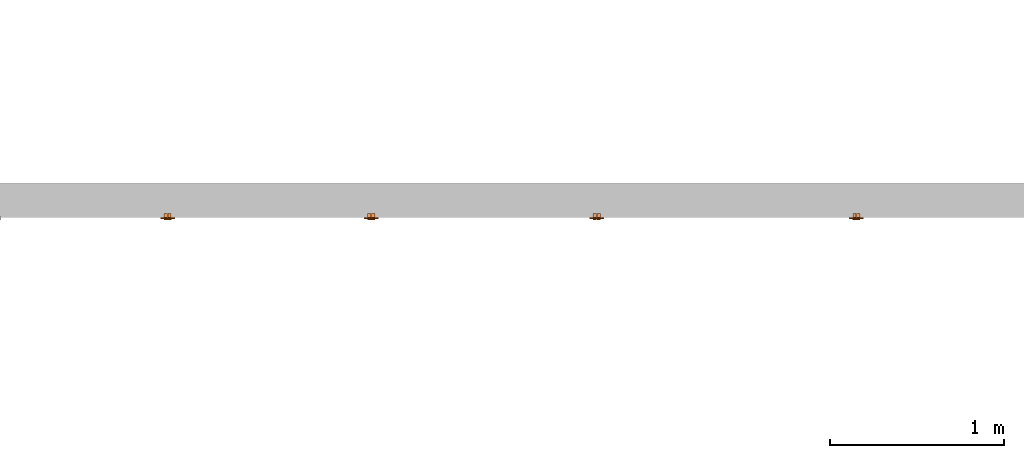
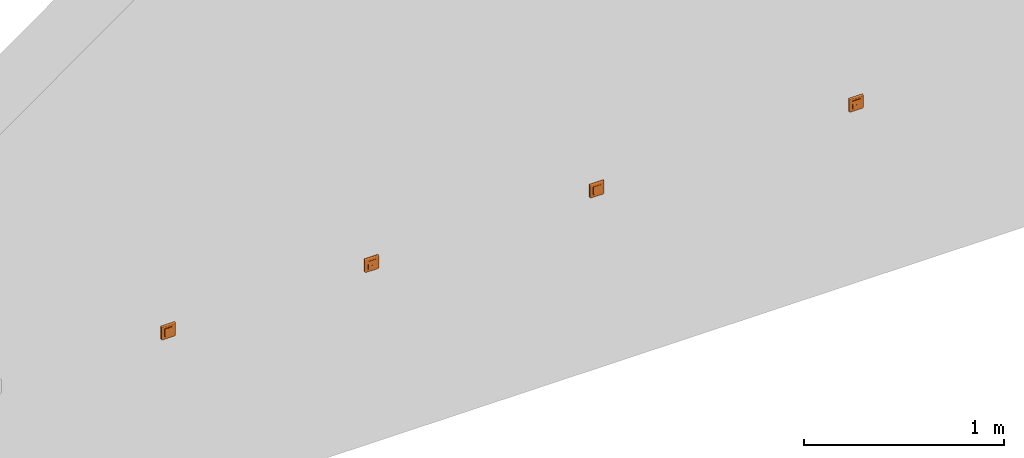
# One storey, part 134 of 197: 4 proxies.
"""IFC2X3 building model written with IfcOpenShell, lengths in metres."""

import ifcopenshell
import ifcopenshell.guid

model = None  # the IFC model being written
_history = None  # IfcOwnerHistory: only IFC2X3 demands one
_inside = {}  # id of a spatial element -> (the spatial element, [elements in it])
_under = {}  # id of a project, library or spatial element -> (it, [spatial elements below it])
_declared = {}  # id of a project -> (the project, [libraries it declares])
_typed = {}  # id of a type object -> (the type object, [elements of that type])
_made_of = {}  # id of a material, layer set ... -> (it, [elements and type objects made of it])


def new_model(schema):
    """Start an empty IFC model of exactly this schema.

    Asked for "IFC4X3", IfcOpenShell would pick the latest addendum, in which some entities
    have other attributes; the version numbers below select the first issue.
    IFC2X3 requires an IfcOwnerHistory on every rooted entity: one is made here for all.
    """
    global model, _history
    if schema == "IFC4X3":
        model = ifcopenshell.file(schema_version=(4, 3, 0, 0))
    else:
        model = ifcopenshell.file(schema=schema)
    _inside.clear()
    _under.clear()
    _declared.clear()
    _typed.clear()
    _made_of.clear()
    _history = None
    if model.schema == "IFC2X3":
        org = make("IfcOrganization", Name="unknown")
        user = make(
            "IfcPersonAndOrganization",
            ThePerson=make("IfcPerson", FamilyName="unknown"),
            TheOrganization=org,
        )
        app = make(
            "IfcApplication",
            ApplicationDeveloper=org,
            Version="unknown",
            ApplicationFullName="unknown",
            ApplicationIdentifier="unknown",
        )
        _history = make(
            "IfcOwnerHistory",
            OwningUser=user,
            OwningApplication=app,
            ChangeAction="ADDED",
            CreationDate=0,
        )
    return model


def make(cls, **values):
    """One entity of the class cls with the attributes given. An attribute that is None is left unset."""
    return model.create_entity(
        cls, **{name: value for name, value in values.items() if value is not None}
    )


def entity(cls, *values):
    """Any entity or typed value of the class cls, its attributes in the order of the schema. None: left unset."""
    e = model.create_entity(cls)
    for i, value in enumerate(values):
        if value is not None:
            e[i] = value
    return e


def rooted(cls, **values):
    """An entity with a GlobalId (a new one), such as an element, a storey or a relation."""
    return make(cls, GlobalId=ifcopenshell.guid.new(), OwnerHistory=_history, **values)


def si_unit(unit_type, name, prefix=None):
    """IfcSIUnit, for example si_unit("LENGTHUNIT", "METRE", prefix="MILLI")."""
    return make("IfcSIUnit", UnitType=unit_type, Prefix=prefix, Name=name)


def converted_unit(unit_type, name, factor, base, dimensions=None, offset=None):
    """IfcConversionBasedUnit, such as the inch: factor (a typed value) times the base unit."""
    return make(
        "IfcConversionBasedUnit"
        if offset is None
        else "IfcConversionBasedUnitWithOffset",
        ConversionOffset=offset,
        Dimensions=None
        if dimensions is None
        else entity("IfcDimensionalExponents", *dimensions),
        UnitType=unit_type,
        Name=name,
        ConversionFactor=make(
            "IfcMeasureWithUnit", ValueComponent=factor, UnitComponent=base
        ),
    )


def assignment(units):
    """IfcUnitAssignment: the units of a project."""
    return None if units is None else make("IfcUnitAssignment", Units=units)


def point(xyz):
    """IfcCartesianPoint."""
    return None if xyz is None else make("IfcCartesianPoint", Coordinates=xyz)


def direction(xyz):
    """IfcDirection."""
    return None if xyz is None else make("IfcDirection", DirectionRatios=xyz)


def frame(location, z_axis=None, x_axis=None):
    """IfcAxis2Placement3D, a coordinate frame: its origin and axes. An axis left out is left unset."""
    return make(
        "IfcAxis2Placement3D",
        Location=point(location),
        Axis=direction(z_axis),
        RefDirection=direction(x_axis),
    )


def origin():
    """The frame at (0, 0, 0) with its axes left unset."""
    return frame((0.0, 0.0, 0.0))


def place(relative_to, where):
    """IfcLocalPlacement: puts the frame where relative to a parent placement (None: the world)."""
    return make(
        "IfcLocalPlacement", PlacementRelTo=relative_to, RelativePlacement=where
    )


def context(
    kind, dimensions, precision=None, world=None, true_north=None, identifier=None
):
    """IfcGeometricRepresentationContext, for example the 3D "Model" context."""
    return make(
        "IfcGeometricRepresentationContext",
        ContextIdentifier=identifier,
        ContextType=kind,
        CoordinateSpaceDimension=dimensions,
        Precision=precision,
        WorldCoordinateSystem=world,
        TrueNorth=true_north,
    )


def subcontext(parent, identifier, kind, view, scale=None):
    """IfcGeometricRepresentationSubContext, for example "Body" below "Model"."""
    return make(
        "IfcGeometricRepresentationSubContext",
        ContextIdentifier=identifier,
        ContextType=kind,
        ParentContext=parent,
        TargetScale=scale,
        TargetView=view,
    )


def project(units=None, contexts=None):
    """IfcProject with its units and contexts."""
    return rooted(
        "IfcProject",
        Name="project",
        RepresentationContexts=contexts,
        UnitsInContext=assignment(units),
    )


def spatial(cls, under=None, at=None, **own):
    """A site, building, storey or space (cls), placed at a placement, below another one or the project."""
    s = rooted(cls, ObjectPlacement=at, **own)
    if under is not None:
        _under.setdefault(under.id(), (under, []))[1].append(s)
    return s


def faces_of(points, faces, orient=None, outer=None):
    """IfcFace entities. A face is a list of loops; a loop is a list of indices into points, from 0.

    orient and outer hold one flag for each loop. By default every Orientation is true, the
    first loop of a face is its IfcFaceOuterBound and the others are IfcFaceBound.
    """
    made = []
    for i, loops in enumerate(faces):
        bounds = []
        for j, loop in enumerate(loops):
            is_outer = j == 0 if outer is None else outer[i][j]
            bounds.append(
                make(
                    "IfcFaceOuterBound" if is_outer else "IfcFaceBound",
                    Bound=make("IfcPolyLoop", Polygon=[points[k] for k in loop]),
                    Orientation=True if orient is None else orient[i][j],
                )
            )
        made.append(make("IfcFace", Bounds=bounds))
    return made


def faceted_brep(points, faces, orient=None, outer=None, voids=None):
    """IfcFacetedBrep: a solid bounded by flat faces; with voids (closed shells), ...WithVoids."""
    shared = [point(p) for p in points]
    hull = make("IfcClosedShell", CfsFaces=faces_of(shared, faces, orient, outer))
    if voids is None:
        return make("IfcFacetedBrep", Outer=hull)
    return make(
        "IfcFacetedBrepWithVoids",
        Outer=hull,
        Voids=[
            make(cls, CfsFaces=faces_of(shared, fs, o, b)) for cls, fs, o, b in voids
        ],
    )


def shape(context_of_items, identifier, shape_type, items):
    """IfcShapeRepresentation: the items that make up one representation, for example the "Body"."""
    return make(
        "IfcShapeRepresentation",
        ContextOfItems=context_of_items,
        RepresentationIdentifier=identifier,
        RepresentationType=shape_type,
        Items=items,
    )


def source(mapping_origin, context_of_items, identifier, shape_type, items):
    """IfcRepresentationMap: a shape defined once, which mapped items show again and again."""
    return make(
        "IfcRepresentationMap",
        MappingOrigin=mapping_origin,
        MappedRepresentation=shape(context_of_items, identifier, shape_type, items),
    )


def transform(
    local_origin,
    x_axis=None,
    y_axis=None,
    z_axis=None,
    scale=None,
    scale2=None,
    scale3=None,
    uniform=True,
):
    """IfcCartesianTransformationOperator3D, or its non-uniform kind. x_axis, y_axis, z_axis: its Axis1, 2, 3."""
    if uniform:
        return make(
            "IfcCartesianTransformationOperator3D",
            Axis1=direction(x_axis),
            Axis2=direction(y_axis),
            LocalOrigin=point(local_origin),
            Scale=scale,
            Axis3=direction(z_axis),
        )
    return make(
        "IfcCartesianTransformationOperator3DnonUniform",
        Axis1=direction(x_axis),
        Axis2=direction(y_axis),
        LocalOrigin=point(local_origin),
        Scale=scale,
        Axis3=direction(z_axis),
        Scale2=scale2,
        Scale3=scale3,
    )


def mapped(mapping_source, mapping_target):
    """IfcMappedItem: shows the shape of a source again, moved by a transform."""
    return make(
        "IfcMappedItem", MappingSource=mapping_source, MappingTarget=mapping_target
    )


def material(Name=None, Category=None):
    """IfcMaterial."""
    return make("IfcMaterial", Name=Name, Category=Category)


def material_list(materials):
    """IfcMaterialList."""
    return make("IfcMaterialList", Materials=materials)


def made_of(thing, what):
    """Note that an element or type object is made of a material, layer set ...; save() writes the relation."""
    if what is not None:
        _made_of.setdefault(what.id(), (what, []))[1].append(thing)
    return thing


def type_object(cls, material=None, **own):
    """A type object (cls), such as IfcWallType, which elements share."""
    return made_of(rooted(cls, **own), material)


def type_shapes(of_type, sources):
    """Give a type object the sources (RepresentationMaps) that its elements show as mapped items."""
    of_type.RepresentationMaps = sources


def element(
    cls,
    number,
    at=None,
    inside=None,
    cuts=None,
    type_object=None,
    material=None,
    context=None,
    identifier="Body",
    shape_type=None,
    held_by="IfcProductDefinitionShape",
    body=None,
    shapes=None,
    **own,
):
    """One element of the class cls, such as IfcWall. Its Tag is "e" and its number.

    at: its placement. inside: the storey or other place that contains it. cuts: it is an
    opening in that element (IfcRelVoidsElement). A single representation is given by context,
    identifier, shape_type and body (its items); several are given by shapes. held_by: the class
    of the entity that holds the representations. save() writes the other relations.
    """
    e = rooted(cls, Tag="e%d" % number, ObjectPlacement=at, **own)
    if body is not None:
        shapes = [shape(context, identifier, shape_type, body)]
    if shapes is not None:
        e.Representation = make(held_by, Representations=shapes)
    if inside is not None:
        _inside.setdefault(inside.id(), (inside, []))[1].append(e)
    if cuts is not None:
        rooted(
            "IfcRelVoidsElement", RelatingBuildingElement=cuts, RelatedOpeningElement=e
        )
    if type_object is not None:
        _typed.setdefault(type_object.id(), (type_object, []))[1].append(e)
    return made_of(e, material)


def aggregate(whole, parts):
    """IfcRelAggregates: a whole, such as a stair, and the parts it consists of."""
    return rooted("IfcRelAggregates", RelatingObject=whole, RelatedObjects=parts)


def save(model, path):
    """Write the relations noted so far, then the file.

    IfcRelAggregates (storeys below a building ...), IfcRelContainedInSpatialStructure (elements
    in a storey), IfcRelDefinesByType, IfcRelAssociatesMaterial and IfcRelDeclares: one each for
    every whole, place, type object, material and project.
    """
    for whole, parts in _under.values():
        aggregate(whole, parts)
    for where, things in _inside.values():
        rooted(
            "IfcRelContainedInSpatialStructure",
            RelatedElements=things,
            RelatingStructure=where,
        )
    for kind, things in _typed.values():
        rooted("IfcRelDefinesByType", RelatedObjects=things, RelatingType=kind)
    for what, things in _made_of.values():
        rooted("IfcRelAssociatesMaterial", RelatedObjects=things, RelatingMaterial=what)
    for by, libraries in _declared.values():
        rooted("IfcRelDeclares", RelatingContext=by, RelatedDefinitions=libraries)
    model.write(path)


model = new_model("IFC2X3")

# Units and contexts
model_context = context("Model", 3, precision=1e-05, world=origin(), true_north=direction((6.123031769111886e-17, 1.0)))
body_context = subcontext(model_context, "Body", "Model", "MODEL_VIEW")
ifc_project = project(units=[si_unit("LENGTHUNIT", "METRE"), converted_unit("PLANEANGLEUNIT", "DEGREE", entity("IfcPlaneAngleMeasure", 0.017453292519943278), si_unit("PLANEANGLEUNIT", "RADIAN"), dimensions=[0, 0, 0, 0, 0, 0, 0]), si_unit("AREAUNIT", "SQUARE_METRE")], contexts=[model_context])

# Site, building, storey
site_placement = place(None, origin())
site = spatial("IfcSite", under=ifc_project, at=site_placement, Name="Default", CompositionType="ELEMENT")
building_placement = place(site_placement, origin())
building = spatial("IfcBuilding", under=site, at=building_placement, CompositionType="ELEMENT")
storey_placement = place(building_placement, origin())
storey = spatial("IfcBuildingStorey", under=building, at=storey_placement, Name="Niveau 0", CompositionType="ELEMENT", Elevation=0.0)

# Proxies
ifc_material_1 = material(Name="BETCE-DOIGT-BLANC")
ifc_material_2 = material(Name="BETCE-ENJOLIVEUR-BLANC")
ifc_material_3 = material(Name="<Unnamed>")
ifc_material_list = material_list([ifc_material_1, ifc_material_2, ifc_material_3])
building_element_proxy_type_1 = type_object("IfcBuildingElementProxyType", Name="Interrupteur double encastré:Double allumage", PredefinedType="NOTDEFINED", material=ifc_material_list)
shared_shape_1 = source(origin(), body_context, "Body", "Brep", [
    faceted_brep([(0.022499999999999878, -0.010499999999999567, 0.022499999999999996), (9.999999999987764e-05, -0.010499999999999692, 0.022500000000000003), (9.999999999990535e-05, -0.014999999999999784, -0.02250000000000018), (0.022499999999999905, -0.014999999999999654, -0.022500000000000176), (9.99999999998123e-05, 0.0, 0.022499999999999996), (0.022499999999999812, 0.0, 0.022499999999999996), (0.022499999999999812, 0.0, -0.02250000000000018), (9.99999999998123e-05, 0.0, -0.02250000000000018)], [[[0, 1, 2, 3]], [[4, 5, 6, 7]], [[5, 4, 1, 0]], [[6, 5, 0, 3]], [[7, 6, 3, 2]], [[4, 7, 2, 1]]]),
    faceted_brep([(-0.022500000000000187, 0.0, -0.022500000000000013), (-0.022500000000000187, 0.0, 0.022499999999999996), (-0.00010000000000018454, 0.0, 0.022499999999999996), (-0.00010000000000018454, 0.0, -0.022500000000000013), (-0.022500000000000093, -0.014999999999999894, -0.022500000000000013), (-0.02250000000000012, -0.010499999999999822, 0.022499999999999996), (-0.0001000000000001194, -0.010499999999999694, 0.022499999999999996), (-0.00010000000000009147, -0.01499999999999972, -0.022500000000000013)], [[[0, 1, 2, 3]], [[1, 0, 4, 5]], [[2, 1, 5, 6]], [[3, 2, 6, 7]], [[0, 3, 7, 4]], [[5, 4, 7, 6]]]),
    faceted_brep([(0.04099999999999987, -0.008999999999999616, -0.03299999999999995), (0.04099999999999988, -0.008999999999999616, 0.031999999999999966), (0.022499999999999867, -0.008999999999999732, -0.022500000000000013), (0.03299999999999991, -0.008999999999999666, -0.0409999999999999), (0.03507055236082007, -0.008999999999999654, -0.04072740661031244), (0.040727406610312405, -0.00899999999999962, -0.03507055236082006), (0.022499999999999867, -0.008999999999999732, 0.022499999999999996), (-0.022500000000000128, -0.009000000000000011, 0.022499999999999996), (-0.04100000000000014, -0.009000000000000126, 0.031999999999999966), (-0.022500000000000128, -0.009000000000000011, -0.022500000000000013), (-0.04100000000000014, -0.009000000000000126, -0.032999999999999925), (-0.033000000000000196, -0.009000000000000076, -0.04099999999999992), (-0.03507055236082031, -0.00900000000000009, -0.04072740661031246), (-0.040727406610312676, -0.009000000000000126, -0.035070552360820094), (-0.03700000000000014, -0.009000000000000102, -0.03992820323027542), (-0.039928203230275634, -0.009000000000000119, -0.036999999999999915), (-0.038656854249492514, -0.009000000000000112, -0.03865685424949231), (0.03699999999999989, -0.008999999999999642, -0.039928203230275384), (0.039928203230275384, -0.008999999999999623, -0.036999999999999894), (0.03865685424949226, -0.008999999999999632, -0.03865685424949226), (-0.04100000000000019, 0.0, -0.03299999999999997), (-0.041000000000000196, 0.0, 0.04100000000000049), (-0.02250000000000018, 0.0, 0.022499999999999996), (-0.02250000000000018, 0.0, -0.022500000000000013), (-0.033000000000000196, 0.0, -0.04099999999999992), (-0.04072740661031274, 0.0, -0.035070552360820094), (0.022499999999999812, 0.0, 0.022499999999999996), (0.04099999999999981, 0.0, 0.04099999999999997), (0.04099999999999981, 0.0, -0.0329999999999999), (0.022499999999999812, 0.0, -0.022500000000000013), (0.032999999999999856, 0.0, -0.0409999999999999), (0.04072740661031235, 0.0, -0.03507055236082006), (0.03507055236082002, 0.0, -0.04072740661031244), (0.03992820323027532, 0.0, -0.036999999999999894), (0.03699999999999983, 0.0, -0.039928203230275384), (0.0386568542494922, 0.0, -0.03865685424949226), (-0.035070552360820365, 0.0, -0.04072740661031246), (-0.0399282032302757, 0.0, -0.036999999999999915), (-0.03700000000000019, 0.0, -0.03992820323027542), (-0.03865685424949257, 0.0, -0.03865685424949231), (0.04099999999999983, -0.0023293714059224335, 0.040693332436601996), (0.04099999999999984, -0.004499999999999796, 0.039794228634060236), (0.04099999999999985, -0.006363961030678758, 0.03836396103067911), (0.040999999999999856, -0.007794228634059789, 0.03650000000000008), (0.04099999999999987, -0.008693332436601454, 0.034329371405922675), (-0.04100000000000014, -0.008693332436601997, 0.03432937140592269), (-0.04100000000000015, -0.007794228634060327, 0.036500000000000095), (-0.041000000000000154, -0.006363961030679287, 0.03836396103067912), (-0.04100000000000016, -0.00450000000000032, 0.03979422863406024), (-0.041000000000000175, -0.0023293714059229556, 0.040693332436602)], [[[0, 1, 2]], [[3, 0, 2]], [[0, 3, 4]], [[5, 0, 4]], [[2, 1, 6]], [[1, 7, 6]], [[7, 1, 8]], [[9, 7, 8]], [[10, 9, 8]], [[11, 9, 10]], [[11, 10, 12]], [[12, 10, 13]], [[14, 12, 13]], [[15, 14, 13]], [[14, 15, 16]], [[9, 11, 3]], [[2, 9, 3]], [[5, 4, 17]], [[5, 17, 18]], [[19, 18, 17]], [[20, 21, 22]], [[23, 20, 22]], [[24, 20, 23]], [[25, 20, 24]], [[21, 26, 22]], [[26, 21, 27]], [[28, 26, 27]], [[29, 26, 28]], [[30, 29, 28]], [[30, 28, 31]], [[30, 31, 32]], [[31, 33, 32]], [[33, 34, 32]], [[34, 33, 35]], [[29, 30, 24]], [[25, 24, 36]], [[23, 29, 24]], [[37, 25, 36]], [[37, 36, 38]], [[39, 37, 38]], [[1, 0, 28, 27, 40, 41, 42, 43, 44]], [[31, 28, 0, 5]], [[33, 31, 5, 18]], [[35, 33, 18, 19]], [[34, 35, 19, 17]], [[32, 34, 17, 4]], [[30, 32, 4, 3]], [[24, 30, 3, 11]], [[36, 24, 11, 12]], [[38, 36, 12, 14]], [[39, 38, 14, 16]], [[37, 39, 16, 15]], [[25, 37, 15, 13]], [[20, 25, 13, 10]], [[21, 20, 10, 8, 45, 46, 47, 48, 49]], [[44, 43, 46, 45]], [[1, 44, 45, 8]], [[43, 42, 47, 46]], [[49, 48, 41, 40]], [[21, 49, 40, 27]], [[42, 41, 48, 47]], [[23, 22, 7, 9]], [[29, 23, 9, 2]], [[26, 29, 2, 6]], [[22, 26, 6, 7]]]),
    faceted_brep([(-0.020500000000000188, 0.0, 0.020499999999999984), (-0.020500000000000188, 0.0, -0.020500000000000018), (-0.0021000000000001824, 0.0, -0.020500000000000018), (-0.0021000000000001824, 0.0, 0.020499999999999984), (-0.02050000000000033, 0.023000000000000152, 0.020499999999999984), (-0.0021000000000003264, 0.023000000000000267, 0.020499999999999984), (-0.0021000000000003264, 0.023000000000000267, -0.020500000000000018), (-0.02050000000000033, 0.023000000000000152, -0.020500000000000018)], [[[0, 1, 2, 3]], [[4, 5, 6, 7]], [[1, 0, 4, 7]], [[2, 1, 7, 6]], [[3, 2, 6, 5]], [[0, 3, 5, 4]]]),
    faceted_brep([(0.002099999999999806, 0.0, -0.02050000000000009), (0.002099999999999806, 0.0, 0.020499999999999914), (0.002099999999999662, 0.02300000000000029, 0.020499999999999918), (0.002099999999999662, 0.02300000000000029, -0.020500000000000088), (0.020499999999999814, 0.0, -0.020500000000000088), (0.02049999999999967, 0.023000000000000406, -0.020500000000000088), (0.020499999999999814, 0.0, 0.020499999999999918), (0.02049999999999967, 0.023000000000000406, 0.020499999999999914)], [[[0, 1, 2, 3]], [[4, 0, 3, 5]], [[6, 4, 5, 7]], [[1, 6, 7, 2]], [[2, 7, 5, 3]], [[1, 0, 4, 6]]]),
])
type_shapes(building_element_proxy_type_1, [shared_shape_1])
proxy_1_placement = place(storey_placement, frame((-412.6884485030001, 122.781355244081, 1.1)))
element("IfcBuildingElementProxy", 1, at=proxy_1_placement, inside=storey, type_object=building_element_proxy_type_1, material=ifc_material_list, Name="Interrupteur double encastré:Double allumage", ObjectType="Interrupteur double encastré:Double allumage", context=body_context, shape_type="MappedRepresentation", body=[
    mapped(shared_shape_1, transform((0.0, 0.0, 0.0), scale=1.0)),
])
building_element_proxy_type_2 = type_object("IfcBuildingElementProxyType", Name="Interrupteur double encastré:Double va et vient", PredefinedType="NOTDEFINED", material=ifc_material_list)
shared_shape_2 = source(origin(), body_context, "Body", "Brep", [
    faceted_brep([(0.022499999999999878, -0.010499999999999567, 0.022499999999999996), (9.999999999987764e-05, -0.010499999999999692, 0.022500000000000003), (9.999999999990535e-05, -0.014999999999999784, -0.02250000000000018), (0.022499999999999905, -0.014999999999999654, -0.022500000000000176), (9.99999999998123e-05, 0.0, 0.022499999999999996), (0.022499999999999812, 0.0, 0.022499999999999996), (0.022499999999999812, 0.0, -0.02250000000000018), (9.99999999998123e-05, 0.0, -0.02250000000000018)], [[[0, 1, 2, 3]], [[4, 5, 6, 7]], [[5, 4, 1, 0]], [[6, 5, 0, 3]], [[7, 6, 3, 2]], [[4, 7, 2, 1]]]),
    faceted_brep([(-0.022500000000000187, 0.0, -0.022500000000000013), (-0.022500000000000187, 0.0, 0.022499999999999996), (-0.00010000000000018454, 0.0, 0.022499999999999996), (-0.00010000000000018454, 0.0, -0.022500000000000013), (-0.022500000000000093, -0.014999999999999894, -0.022500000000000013), (-0.02250000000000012, -0.010499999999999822, 0.022499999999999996), (-0.0001000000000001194, -0.010499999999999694, 0.022499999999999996), (-0.00010000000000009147, -0.01499999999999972, -0.022500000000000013)], [[[0, 1, 2, 3]], [[1, 0, 4, 5]], [[2, 1, 5, 6]], [[3, 2, 6, 7]], [[0, 3, 7, 4]], [[5, 4, 7, 6]]]),
    faceted_brep([(0.04099999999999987, -0.008999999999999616, -0.03299999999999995), (0.04099999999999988, -0.008999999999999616, 0.031999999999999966), (0.022499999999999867, -0.008999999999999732, -0.022500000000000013), (0.03299999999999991, -0.008999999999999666, -0.0409999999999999), (0.03507055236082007, -0.008999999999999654, -0.04072740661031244), (0.040727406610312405, -0.00899999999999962, -0.03507055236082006), (0.022499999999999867, -0.008999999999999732, 0.022499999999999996), (-0.022500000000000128, -0.009000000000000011, 0.022499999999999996), (-0.04100000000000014, -0.009000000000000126, 0.031999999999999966), (-0.022500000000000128, -0.009000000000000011, -0.022500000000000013), (-0.04100000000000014, -0.009000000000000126, -0.032999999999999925), (-0.033000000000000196, -0.009000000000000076, -0.04099999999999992), (-0.03507055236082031, -0.00900000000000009, -0.04072740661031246), (-0.040727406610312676, -0.009000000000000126, -0.035070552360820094), (-0.03700000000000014, -0.009000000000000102, -0.03992820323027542), (-0.039928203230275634, -0.009000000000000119, -0.036999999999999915), (-0.038656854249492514, -0.009000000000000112, -0.03865685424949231), (0.03699999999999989, -0.008999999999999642, -0.039928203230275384), (0.039928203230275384, -0.008999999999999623, -0.036999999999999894), (0.03865685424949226, -0.008999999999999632, -0.03865685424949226), (-0.04100000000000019, 0.0, -0.03299999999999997), (-0.041000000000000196, 0.0, 0.04100000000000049), (-0.02250000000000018, 0.0, 0.022499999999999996), (-0.02250000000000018, 0.0, -0.022500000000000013), (-0.033000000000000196, 0.0, -0.04099999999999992), (-0.04072740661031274, 0.0, -0.035070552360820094), (0.022499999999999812, 0.0, 0.022499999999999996), (0.04099999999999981, 0.0, 0.04099999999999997), (0.04099999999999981, 0.0, -0.0329999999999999), (0.022499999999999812, 0.0, -0.022500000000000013), (0.032999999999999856, 0.0, -0.0409999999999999), (0.04072740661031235, 0.0, -0.03507055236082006), (0.03507055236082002, 0.0, -0.04072740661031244), (0.03992820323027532, 0.0, -0.036999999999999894), (0.03699999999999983, 0.0, -0.039928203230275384), (0.0386568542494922, 0.0, -0.03865685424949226), (-0.035070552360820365, 0.0, -0.04072740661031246), (-0.0399282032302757, 0.0, -0.036999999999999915), (-0.03700000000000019, 0.0, -0.03992820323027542), (-0.03865685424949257, 0.0, -0.03865685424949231), (0.04099999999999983, -0.0023293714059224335, 0.040693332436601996), (0.04099999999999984, -0.004499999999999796, 0.039794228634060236), (0.04099999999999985, -0.006363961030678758, 0.03836396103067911), (0.040999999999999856, -0.007794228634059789, 0.03650000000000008), (0.04099999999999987, -0.008693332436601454, 0.034329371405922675), (-0.04100000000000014, -0.008693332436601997, 0.03432937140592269), (-0.04100000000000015, -0.007794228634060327, 0.036500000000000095), (-0.041000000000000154, -0.006363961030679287, 0.03836396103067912), (-0.04100000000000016, -0.00450000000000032, 0.03979422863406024), (-0.041000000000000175, -0.0023293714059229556, 0.040693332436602)], [[[0, 1, 2]], [[3, 0, 2]], [[0, 3, 4]], [[5, 0, 4]], [[2, 1, 6]], [[1, 7, 6]], [[7, 1, 8]], [[9, 7, 8]], [[10, 9, 8]], [[11, 9, 10]], [[11, 10, 12]], [[12, 10, 13]], [[14, 12, 13]], [[15, 14, 13]], [[14, 15, 16]], [[9, 11, 3]], [[2, 9, 3]], [[5, 4, 17]], [[5, 17, 18]], [[19, 18, 17]], [[20, 21, 22]], [[23, 20, 22]], [[24, 20, 23]], [[25, 20, 24]], [[21, 26, 22]], [[26, 21, 27]], [[28, 26, 27]], [[29, 26, 28]], [[30, 29, 28]], [[30, 28, 31]], [[30, 31, 32]], [[31, 33, 32]], [[33, 34, 32]], [[34, 33, 35]], [[29, 30, 24]], [[25, 24, 36]], [[23, 29, 24]], [[37, 25, 36]], [[37, 36, 38]], [[39, 37, 38]], [[1, 0, 28, 27, 40, 41, 42, 43, 44]], [[31, 28, 0, 5]], [[33, 31, 5, 18]], [[35, 33, 18, 19]], [[34, 35, 19, 17]], [[32, 34, 17, 4]], [[30, 32, 4, 3]], [[24, 30, 3, 11]], [[36, 24, 11, 12]], [[38, 36, 12, 14]], [[39, 38, 14, 16]], [[37, 39, 16, 15]], [[25, 37, 15, 13]], [[20, 25, 13, 10]], [[21, 20, 10, 8, 45, 46, 47, 48, 49]], [[44, 43, 46, 45]], [[1, 44, 45, 8]], [[43, 42, 47, 46]], [[49, 48, 41, 40]], [[21, 49, 40, 27]], [[42, 41, 48, 47]], [[23, 22, 7, 9]], [[29, 23, 9, 2]], [[26, 29, 2, 6]], [[22, 26, 6, 7]]]),
    faceted_brep([(-0.020500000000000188, 0.0, 0.020499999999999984), (-0.020500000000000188, 0.0, -0.020500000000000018), (-0.0021000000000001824, 0.0, -0.020500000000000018), (-0.0021000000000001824, 0.0, 0.020499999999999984), (-0.02050000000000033, 0.023000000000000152, 0.020499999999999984), (-0.0021000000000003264, 0.023000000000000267, 0.020499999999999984), (-0.0021000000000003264, 0.023000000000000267, -0.020500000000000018), (-0.02050000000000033, 0.023000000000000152, -0.020500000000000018)], [[[0, 1, 2, 3]], [[4, 5, 6, 7]], [[1, 0, 4, 7]], [[2, 1, 7, 6]], [[3, 2, 6, 5]], [[0, 3, 5, 4]]]),
    faceted_brep([(0.002099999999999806, 0.0, -0.02050000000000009), (0.002099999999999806, 0.0, 0.020499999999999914), (0.002099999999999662, 0.02300000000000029, 0.020499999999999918), (0.002099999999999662, 0.02300000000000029, -0.020500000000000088), (0.020499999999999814, 0.0, -0.020500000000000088), (0.02049999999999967, 0.023000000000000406, -0.020500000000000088), (0.020499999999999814, 0.0, 0.020499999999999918), (0.02049999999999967, 0.023000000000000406, 0.020499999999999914)], [[[0, 1, 2, 3]], [[4, 0, 3, 5]], [[6, 4, 5, 7]], [[1, 6, 7, 2]], [[2, 7, 5, 3]], [[1, 0, 4, 6]]]),
])
type_shapes(building_element_proxy_type_2, [shared_shape_2])
proxy_2_placement = place(storey_placement, frame((-411.5154485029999, 122.781355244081, 1.1)))
element("IfcBuildingElementProxy", 2, at=proxy_2_placement, inside=storey, type_object=building_element_proxy_type_2, material=ifc_material_list, Name="Interrupteur double encastré:Double va et vient", ObjectType="Interrupteur double encastré:Double va et vient", context=body_context, shape_type="MappedRepresentation", body=[
    mapped(shared_shape_2, transform((0.0, 0.0, 0.0), scale=1.0)),
])
building_element_proxy_type_3 = type_object("IfcBuildingElementProxyType", Name="Interrupteur double encastré:Simple allumage+Bouton poussoir", PredefinedType="NOTDEFINED", material=ifc_material_list)
shared_shape_3 = source(origin(), body_context, "Body", "Brep", [
    faceted_brep([(0.022499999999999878, -0.010499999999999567, 0.022499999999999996), (9.999999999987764e-05, -0.010499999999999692, 0.022500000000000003), (9.999999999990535e-05, -0.014999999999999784, -0.02250000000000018), (0.022499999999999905, -0.014999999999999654, -0.022500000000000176), (9.99999999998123e-05, 0.0, 0.022499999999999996), (0.022499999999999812, 0.0, 0.022499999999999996), (0.022499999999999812, 0.0, -0.02250000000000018), (9.99999999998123e-05, 0.0, -0.02250000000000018)], [[[0, 1, 2, 3]], [[4, 5, 6, 7]], [[5, 4, 1, 0]], [[6, 5, 0, 3]], [[7, 6, 3, 2]], [[4, 7, 2, 1]]]),
    faceted_brep([(-0.022500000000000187, 0.0, -0.022500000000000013), (-0.022500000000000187, 0.0, 0.022499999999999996), (-0.00010000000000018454, 0.0, 0.022499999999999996), (-0.00010000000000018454, 0.0, -0.022500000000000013), (-0.022500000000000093, -0.014999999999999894, -0.022500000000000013), (-0.02250000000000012, -0.010499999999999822, 0.022499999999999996), (-0.0001000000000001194, -0.010499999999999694, 0.022499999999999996), (-0.00010000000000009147, -0.01499999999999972, -0.022500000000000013)], [[[0, 1, 2, 3]], [[1, 0, 4, 5]], [[2, 1, 5, 6]], [[3, 2, 6, 7]], [[0, 3, 7, 4]], [[5, 4, 7, 6]]]),
    faceted_brep([(0.04099999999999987, -0.008999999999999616, -0.03299999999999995), (0.04099999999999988, -0.008999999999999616, 0.031999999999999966), (0.022499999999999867, -0.008999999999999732, -0.022500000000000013), (0.03299999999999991, -0.008999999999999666, -0.0409999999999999), (0.03507055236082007, -0.008999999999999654, -0.04072740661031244), (0.040727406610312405, -0.00899999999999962, -0.03507055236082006), (0.022499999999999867, -0.008999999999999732, 0.022499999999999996), (-0.022500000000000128, -0.009000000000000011, 0.022499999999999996), (-0.04100000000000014, -0.009000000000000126, 0.031999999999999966), (-0.022500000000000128, -0.009000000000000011, -0.022500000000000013), (-0.04100000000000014, -0.009000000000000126, -0.032999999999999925), (-0.033000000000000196, -0.009000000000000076, -0.04099999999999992), (-0.03507055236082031, -0.00900000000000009, -0.04072740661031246), (-0.040727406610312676, -0.009000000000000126, -0.035070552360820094), (-0.03700000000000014, -0.009000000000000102, -0.03992820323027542), (-0.039928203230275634, -0.009000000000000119, -0.036999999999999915), (-0.038656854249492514, -0.009000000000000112, -0.03865685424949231), (0.03699999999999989, -0.008999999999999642, -0.039928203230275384), (0.039928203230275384, -0.008999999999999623, -0.036999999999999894), (0.03865685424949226, -0.008999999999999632, -0.03865685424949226), (-0.04100000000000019, 0.0, -0.03299999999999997), (-0.041000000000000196, 0.0, 0.04100000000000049), (-0.02250000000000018, 0.0, 0.022499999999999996), (-0.02250000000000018, 0.0, -0.022500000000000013), (-0.033000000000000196, 0.0, -0.04099999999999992), (-0.04072740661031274, 0.0, -0.035070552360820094), (0.022499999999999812, 0.0, 0.022499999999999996), (0.04099999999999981, 0.0, 0.04099999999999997), (0.04099999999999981, 0.0, -0.0329999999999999), (0.022499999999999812, 0.0, -0.022500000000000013), (0.032999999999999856, 0.0, -0.0409999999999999), (0.04072740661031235, 0.0, -0.03507055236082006), (0.03507055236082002, 0.0, -0.04072740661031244), (0.03992820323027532, 0.0, -0.036999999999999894), (0.03699999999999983, 0.0, -0.039928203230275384), (0.0386568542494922, 0.0, -0.03865685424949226), (-0.035070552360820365, 0.0, -0.04072740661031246), (-0.0399282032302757, 0.0, -0.036999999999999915), (-0.03700000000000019, 0.0, -0.03992820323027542), (-0.03865685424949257, 0.0, -0.03865685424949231), (0.04099999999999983, -0.0023293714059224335, 0.040693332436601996), (0.04099999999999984, -0.004499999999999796, 0.039794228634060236), (0.04099999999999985, -0.006363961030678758, 0.03836396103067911), (0.040999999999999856, -0.007794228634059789, 0.03650000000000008), (0.04099999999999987, -0.008693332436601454, 0.034329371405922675), (-0.04100000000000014, -0.008693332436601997, 0.03432937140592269), (-0.04100000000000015, -0.007794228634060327, 0.036500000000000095), (-0.041000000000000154, -0.006363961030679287, 0.03836396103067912), (-0.04100000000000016, -0.00450000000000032, 0.03979422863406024), (-0.041000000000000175, -0.0023293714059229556, 0.040693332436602)], [[[0, 1, 2]], [[3, 0, 2]], [[0, 3, 4]], [[5, 0, 4]], [[2, 1, 6]], [[1, 7, 6]], [[7, 1, 8]], [[9, 7, 8]], [[10, 9, 8]], [[11, 9, 10]], [[11, 10, 12]], [[12, 10, 13]], [[14, 12, 13]], [[15, 14, 13]], [[14, 15, 16]], [[9, 11, 3]], [[2, 9, 3]], [[5, 4, 17]], [[5, 17, 18]], [[19, 18, 17]], [[20, 21, 22]], [[23, 20, 22]], [[24, 20, 23]], [[25, 20, 24]], [[21, 26, 22]], [[26, 21, 27]], [[28, 26, 27]], [[29, 26, 28]], [[30, 29, 28]], [[30, 28, 31]], [[30, 31, 32]], [[31, 33, 32]], [[33, 34, 32]], [[34, 33, 35]], [[29, 30, 24]], [[25, 24, 36]], [[23, 29, 24]], [[37, 25, 36]], [[37, 36, 38]], [[39, 37, 38]], [[1, 0, 28, 27, 40, 41, 42, 43, 44]], [[31, 28, 0, 5]], [[33, 31, 5, 18]], [[35, 33, 18, 19]], [[34, 35, 19, 17]], [[32, 34, 17, 4]], [[30, 32, 4, 3]], [[24, 30, 3, 11]], [[36, 24, 11, 12]], [[38, 36, 12, 14]], [[39, 38, 14, 16]], [[37, 39, 16, 15]], [[25, 37, 15, 13]], [[20, 25, 13, 10]], [[21, 20, 10, 8, 45, 46, 47, 48, 49]], [[44, 43, 46, 45]], [[1, 44, 45, 8]], [[43, 42, 47, 46]], [[49, 48, 41, 40]], [[21, 49, 40, 27]], [[42, 41, 48, 47]], [[23, 22, 7, 9]], [[29, 23, 9, 2]], [[26, 29, 2, 6]], [[22, 26, 6, 7]]]),
    faceted_brep([(-0.020500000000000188, 0.0, 0.020499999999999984), (-0.020500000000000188, 0.0, -0.020500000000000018), (-0.0021000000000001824, 0.0, -0.020500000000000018), (-0.0021000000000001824, 0.0, 0.020499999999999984), (-0.02050000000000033, 0.023000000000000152, 0.020499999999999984), (-0.0021000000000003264, 0.023000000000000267, 0.020499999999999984), (-0.0021000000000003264, 0.023000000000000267, -0.020500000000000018), (-0.02050000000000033, 0.023000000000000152, -0.020500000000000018)], [[[0, 1, 2, 3]], [[4, 5, 6, 7]], [[1, 0, 4, 7]], [[2, 1, 7, 6]], [[3, 2, 6, 5]], [[0, 3, 5, 4]]]),
    faceted_brep([(0.002099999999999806, 0.0, -0.02050000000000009), (0.002099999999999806, 0.0, 0.020499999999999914), (0.002099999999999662, 0.02300000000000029, 0.020499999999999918), (0.002099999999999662, 0.02300000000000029, -0.020500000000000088), (0.020499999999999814, 0.0, -0.020500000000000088), (0.02049999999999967, 0.023000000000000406, -0.020500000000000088), (0.020499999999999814, 0.0, 0.020499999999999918), (0.02049999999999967, 0.023000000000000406, 0.020499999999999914)], [[[0, 1, 2, 3]], [[4, 0, 3, 5]], [[6, 4, 5, 7]], [[1, 6, 7, 2]], [[2, 7, 5, 3]], [[1, 0, 4, 6]]]),
])
type_shapes(building_element_proxy_type_3, [shared_shape_3])
proxy_3_placement = place(storey_placement, frame((-410.2154485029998, 122.781355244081, 1.1)))
element("IfcBuildingElementProxy", 3, at=proxy_3_placement, inside=storey, type_object=building_element_proxy_type_3, material=ifc_material_list, Name="Interrupteur double encastré:Simple allumage+Bouton poussoir", ObjectType="Interrupteur double encastré:Simple allumage+Bouton poussoir", context=body_context, shape_type="MappedRepresentation", body=[
    mapped(shared_shape_3, transform((0.0, 0.0, 0.0), scale=1.0)),
])
building_element_proxy_type_4 = type_object("IfcBuildingElementProxyType", Name="Interrupteur double encastré:Simple allumage+Va et vient", PredefinedType="NOTDEFINED", material=ifc_material_list)
shared_shape_4 = source(origin(), body_context, "Body", "Brep", [
    faceted_brep([(0.022499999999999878, -0.010499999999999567, 0.022499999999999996), (9.999999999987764e-05, -0.010499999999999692, 0.022500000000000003), (9.999999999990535e-05, -0.014999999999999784, -0.02250000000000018), (0.022499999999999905, -0.014999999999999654, -0.022500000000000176), (9.99999999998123e-05, 0.0, 0.022499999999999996), (0.022499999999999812, 0.0, 0.022499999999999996), (0.022499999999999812, 0.0, -0.02250000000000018), (9.99999999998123e-05, 0.0, -0.02250000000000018)], [[[0, 1, 2, 3]], [[4, 5, 6, 7]], [[5, 4, 1, 0]], [[6, 5, 0, 3]], [[7, 6, 3, 2]], [[4, 7, 2, 1]]]),
    faceted_brep([(-0.022500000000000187, 0.0, -0.022500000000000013), (-0.022500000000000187, 0.0, 0.022499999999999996), (-0.00010000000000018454, 0.0, 0.022499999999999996), (-0.00010000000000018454, 0.0, -0.022500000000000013), (-0.022500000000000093, -0.014999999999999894, -0.022500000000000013), (-0.02250000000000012, -0.010499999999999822, 0.022499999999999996), (-0.0001000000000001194, -0.010499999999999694, 0.022499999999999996), (-0.00010000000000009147, -0.01499999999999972, -0.022500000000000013)], [[[0, 1, 2, 3]], [[1, 0, 4, 5]], [[2, 1, 5, 6]], [[3, 2, 6, 7]], [[0, 3, 7, 4]], [[5, 4, 7, 6]]]),
    faceted_brep([(0.04099999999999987, -0.008999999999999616, -0.03299999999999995), (0.04099999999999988, -0.008999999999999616, 0.031999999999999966), (0.022499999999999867, -0.008999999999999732, -0.022500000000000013), (0.03299999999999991, -0.008999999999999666, -0.0409999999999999), (0.03507055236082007, -0.008999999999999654, -0.04072740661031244), (0.040727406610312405, -0.00899999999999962, -0.03507055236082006), (0.022499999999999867, -0.008999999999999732, 0.022499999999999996), (-0.022500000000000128, -0.009000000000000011, 0.022499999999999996), (-0.04100000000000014, -0.009000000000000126, 0.031999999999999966), (-0.022500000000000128, -0.009000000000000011, -0.022500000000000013), (-0.04100000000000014, -0.009000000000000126, -0.032999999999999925), (-0.033000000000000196, -0.009000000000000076, -0.04099999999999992), (-0.03507055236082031, -0.00900000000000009, -0.04072740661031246), (-0.040727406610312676, -0.009000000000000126, -0.035070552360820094), (-0.03700000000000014, -0.009000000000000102, -0.03992820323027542), (-0.039928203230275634, -0.009000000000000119, -0.036999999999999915), (-0.038656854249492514, -0.009000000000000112, -0.03865685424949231), (0.03699999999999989, -0.008999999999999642, -0.039928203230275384), (0.039928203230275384, -0.008999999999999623, -0.036999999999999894), (0.03865685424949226, -0.008999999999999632, -0.03865685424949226), (-0.04100000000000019, 0.0, -0.03299999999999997), (-0.041000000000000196, 0.0, 0.04100000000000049), (-0.02250000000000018, 0.0, 0.022499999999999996), (-0.02250000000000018, 0.0, -0.022500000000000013), (-0.033000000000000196, 0.0, -0.04099999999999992), (-0.04072740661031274, 0.0, -0.035070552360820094), (0.022499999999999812, 0.0, 0.022499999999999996), (0.04099999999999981, 0.0, 0.04099999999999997), (0.04099999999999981, 0.0, -0.0329999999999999), (0.022499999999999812, 0.0, -0.022500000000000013), (0.032999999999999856, 0.0, -0.0409999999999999), (0.04072740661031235, 0.0, -0.03507055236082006), (0.03507055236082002, 0.0, -0.04072740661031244), (0.03992820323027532, 0.0, -0.036999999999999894), (0.03699999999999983, 0.0, -0.039928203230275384), (0.0386568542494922, 0.0, -0.03865685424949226), (-0.035070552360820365, 0.0, -0.04072740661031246), (-0.0399282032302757, 0.0, -0.036999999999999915), (-0.03700000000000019, 0.0, -0.03992820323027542), (-0.03865685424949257, 0.0, -0.03865685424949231), (0.04099999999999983, -0.0023293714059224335, 0.040693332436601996), (0.04099999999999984, -0.004499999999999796, 0.039794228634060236), (0.04099999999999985, -0.006363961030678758, 0.03836396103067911), (0.040999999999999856, -0.007794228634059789, 0.03650000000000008), (0.04099999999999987, -0.008693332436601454, 0.034329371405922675), (-0.04100000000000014, -0.008693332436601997, 0.03432937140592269), (-0.04100000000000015, -0.007794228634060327, 0.036500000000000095), (-0.041000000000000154, -0.006363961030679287, 0.03836396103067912), (-0.04100000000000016, -0.00450000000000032, 0.03979422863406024), (-0.041000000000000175, -0.0023293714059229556, 0.040693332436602)], [[[0, 1, 2]], [[3, 0, 2]], [[0, 3, 4]], [[5, 0, 4]], [[2, 1, 6]], [[1, 7, 6]], [[7, 1, 8]], [[9, 7, 8]], [[10, 9, 8]], [[11, 9, 10]], [[11, 10, 12]], [[12, 10, 13]], [[14, 12, 13]], [[15, 14, 13]], [[14, 15, 16]], [[9, 11, 3]], [[2, 9, 3]], [[5, 4, 17]], [[5, 17, 18]], [[19, 18, 17]], [[20, 21, 22]], [[23, 20, 22]], [[24, 20, 23]], [[25, 20, 24]], [[21, 26, 22]], [[26, 21, 27]], [[28, 26, 27]], [[29, 26, 28]], [[30, 29, 28]], [[30, 28, 31]], [[30, 31, 32]], [[31, 33, 32]], [[33, 34, 32]], [[34, 33, 35]], [[29, 30, 24]], [[25, 24, 36]], [[23, 29, 24]], [[37, 25, 36]], [[37, 36, 38]], [[39, 37, 38]], [[1, 0, 28, 27, 40, 41, 42, 43, 44]], [[31, 28, 0, 5]], [[33, 31, 5, 18]], [[35, 33, 18, 19]], [[34, 35, 19, 17]], [[32, 34, 17, 4]], [[30, 32, 4, 3]], [[24, 30, 3, 11]], [[36, 24, 11, 12]], [[38, 36, 12, 14]], [[39, 38, 14, 16]], [[37, 39, 16, 15]], [[25, 37, 15, 13]], [[20, 25, 13, 10]], [[21, 20, 10, 8, 45, 46, 47, 48, 49]], [[44, 43, 46, 45]], [[1, 44, 45, 8]], [[43, 42, 47, 46]], [[49, 48, 41, 40]], [[21, 49, 40, 27]], [[42, 41, 48, 47]], [[23, 22, 7, 9]], [[29, 23, 9, 2]], [[26, 29, 2, 6]], [[22, 26, 6, 7]]]),
    faceted_brep([(-0.020500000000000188, 0.0, 0.020499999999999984), (-0.020500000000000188, 0.0, -0.020500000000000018), (-0.0021000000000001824, 0.0, -0.020500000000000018), (-0.0021000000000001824, 0.0, 0.020499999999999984), (-0.02050000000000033, 0.023000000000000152, 0.020499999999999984), (-0.0021000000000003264, 0.023000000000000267, 0.020499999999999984), (-0.0021000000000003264, 0.023000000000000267, -0.020500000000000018), (-0.02050000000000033, 0.023000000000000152, -0.020500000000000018)], [[[0, 1, 2, 3]], [[4, 5, 6, 7]], [[1, 0, 4, 7]], [[2, 1, 7, 6]], [[3, 2, 6, 5]], [[0, 3, 5, 4]]]),
    faceted_brep([(0.002099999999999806, 0.0, -0.02050000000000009), (0.002099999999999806, 0.0, 0.020499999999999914), (0.002099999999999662, 0.02300000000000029, 0.020499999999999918), (0.002099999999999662, 0.02300000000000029, -0.020500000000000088), (0.020499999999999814, 0.0, -0.020500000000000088), (0.02049999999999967, 0.023000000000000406, -0.020500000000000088), (0.020499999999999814, 0.0, 0.020499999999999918), (0.02049999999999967, 0.023000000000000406, 0.020499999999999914)], [[[0, 1, 2, 3]], [[4, 0, 3, 5]], [[6, 4, 5, 7]], [[1, 6, 7, 2]], [[2, 7, 5, 3]], [[1, 0, 4, 6]]]),
])
type_shapes(building_element_proxy_type_4, [shared_shape_4])
proxy_4_placement = place(storey_placement, frame((-408.7194485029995, 122.781355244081, 1.1)))
element("IfcBuildingElementProxy", 4, at=proxy_4_placement, inside=storey, type_object=building_element_proxy_type_4, material=ifc_material_list, Name="Interrupteur double encastré:Simple allumage+Va et vient", ObjectType="Interrupteur double encastré:Simple allumage+Va et vient", context=body_context, shape_type="MappedRepresentation", body=[
    mapped(shared_shape_4, transform((0.0, 0.0, 0.0), scale=1.0)),
])

save(model, "model.ifc")
